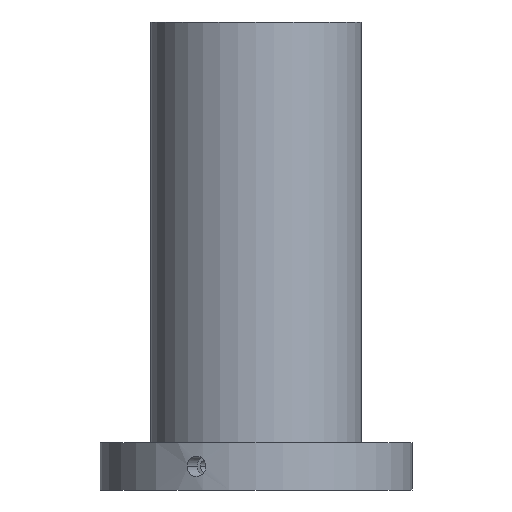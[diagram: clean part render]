
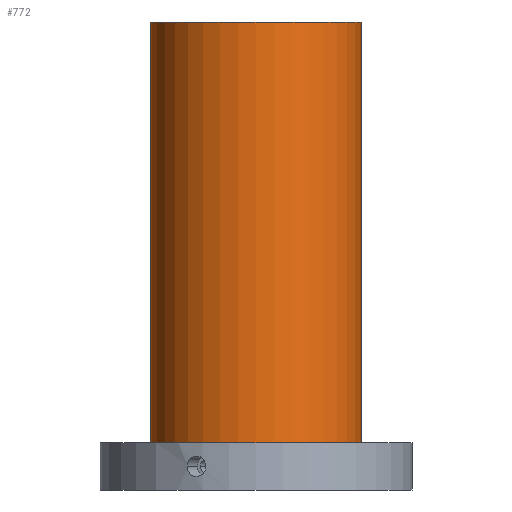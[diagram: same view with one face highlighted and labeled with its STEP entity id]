
A CAD part, front view. The second image highlights one B-rep face of the part: STEP entity #772.
In plain terms, the highlighted cylindrical face has radius 31 mm (diameter 62 mm), a partial arc.
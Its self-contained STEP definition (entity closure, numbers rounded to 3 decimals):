
#86=CARTESIAN_POINT('',(0.,0.,138.));
#87=DIRECTION('',(0.,0.,1.));
#88=DIRECTION('',(-1.,0.,0.));
#89=AXIS2_PLACEMENT_3D('',#86,#87,#88);
#131=CARTESIAN_POINT('',(0.,0.,14.));
#132=DIRECTION('',(0.,0.,-1.));
#133=DIRECTION('',(1.,0.,0.));
#134=AXIS2_PLACEMENT_3D('',#131,#132,#133);
#307=DIRECTION('',(0.,0.,-1.));
#308=VECTOR('',#307,124.);
#309=CARTESIAN_POINT('',(-31.,0.,138.));
#310=LINE('',#309,#308);
#311=DIRECTION('',(0.,0.,-1.));
#312=VECTOR('',#311,124.);
#313=CARTESIAN_POINT('',(31.,0.,138.));
#314=LINE('',#313,#312);
#355=CARTESIAN_POINT('',(-31.,0.,14.));
#356=CARTESIAN_POINT('',(31.,0.,14.));
#357=VERTEX_POINT('',#355);
#358=VERTEX_POINT('',#356);
#427=CARTESIAN_POINT('',(31.,0.,138.));
#428=VERTEX_POINT('',#427);
#429=CARTESIAN_POINT('',(-31.,0.,138.));
#430=VERTEX_POINT('',#429);
#761=CARTESIAN_POINT('',(0.,0.,158.));
#762=DIRECTION('',(0.,0.,-1.));
#763=DIRECTION('',(-1.,0.,0.));
#764=AXIS2_PLACEMENT_3D('',#761,#762,#763);
#765=CYLINDRICAL_SURFACE('',#764,31.);
#766=ORIENTED_EDGE('',*,*,#573,.T.);
#767=ORIENTED_EDGE('',*,*,#546,.F.);
#768=ORIENTED_EDGE('',*,*,#526,.T.);
#769=ORIENTED_EDGE('',*,*,#543,.T.);
#770=EDGE_LOOP('',(#766,#767,#768,#769));
#771=FACE_OUTER_BOUND('',#770,.F.);
#772=ADVANCED_FACE('',(#771),#765,.T.);
#90=CIRCLE('',#89,31.);
#135=CIRCLE('',#134,31.);
#526=EDGE_CURVE('',#430,#428,#90,.T.);
#543=EDGE_CURVE('',#428,#358,#314,.T.);
#546=EDGE_CURVE('',#430,#357,#310,.T.);
#573=EDGE_CURVE('',#358,#357,#135,.T.);
